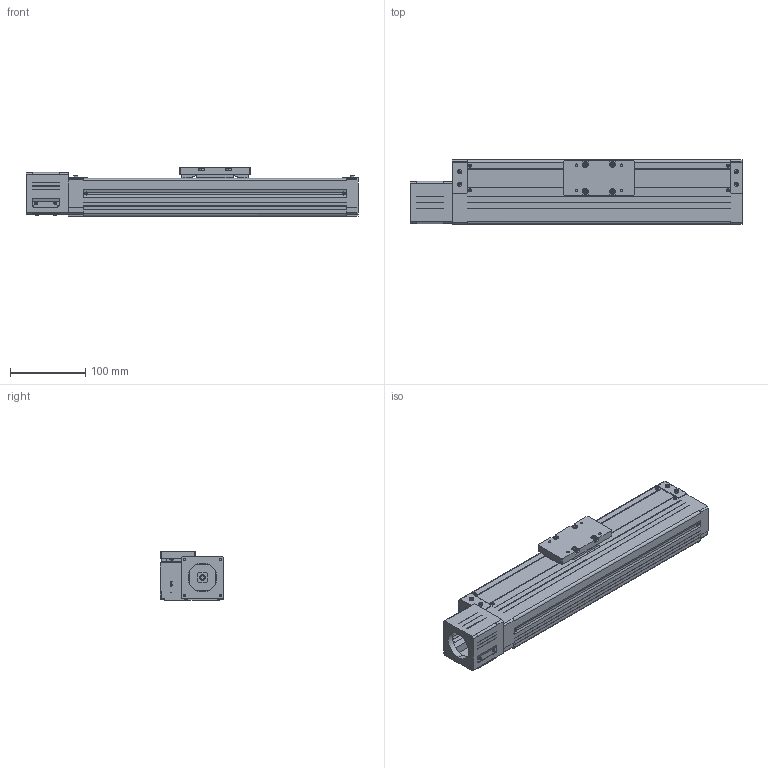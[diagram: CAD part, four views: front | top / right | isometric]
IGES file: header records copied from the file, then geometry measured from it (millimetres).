
Global section: file name: No Iges File Name specified; native system: AutoDesk Inventor R10; preprocessor: AutoDesk Inventor Iges Exporter R10; author: No Author specified; organization: No Organization specified; date: 20110701.172022; units: millimetre
Bounding box: 441 x 85 x 65 mm (x, y, z)
Surface area: 284730.8 mm2 (no closed solid volume)
Topology: 0 solids, 0 shells, 946 faces, 5842 edges, 5822 vertices
Faces by surface type: bspline 946
